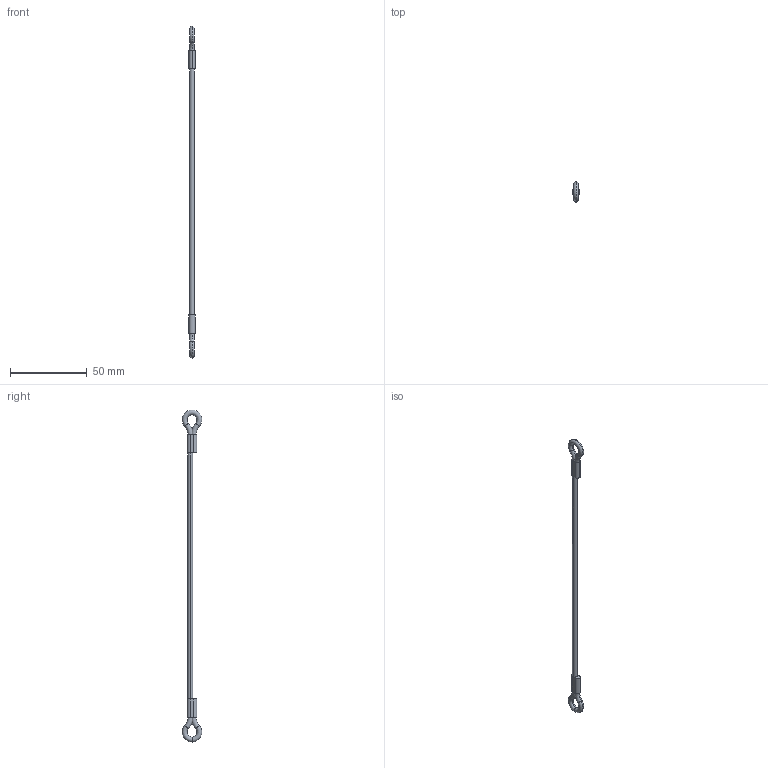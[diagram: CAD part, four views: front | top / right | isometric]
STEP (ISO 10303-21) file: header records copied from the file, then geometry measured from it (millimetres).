
FILE_DESCRIPTION (( 'STEP AP203' ), '1' );
FILE_NAME ('LA1065.I06-203C1.step', '2026-03-23T15:44:02', ( '' ), ( '' ), 'SwSTEP 2.0', 'SolidWorks 2019', '' );
FILE_SCHEMA (( 'CONFIG_CONTROL_DESIGN' ));
Length unit declared in the file: millimetre
Products named in the file (1): LA1065.I06-203C1
Bounding box: 3.99 x 12.77 x 215.96 mm (x, y, z)
Volume: 2355.9 mm3; surface area: 2746 mm2
Topology: 1 solids, 1 shells, 30 faces, 72 edges, 44 vertices
Faces by surface type: torus 14, cylinder 8, plane 8
Entity records: 1025 total; most frequent: CARTESIAN_POINT 207, DIRECTION 178, ORIENTED_EDGE 144, AXIS2_PLACEMENT_3D 79, EDGE_CURVE 72, CIRCLE 48, VERTEX_POINT 44, EDGE_LOOP 34
